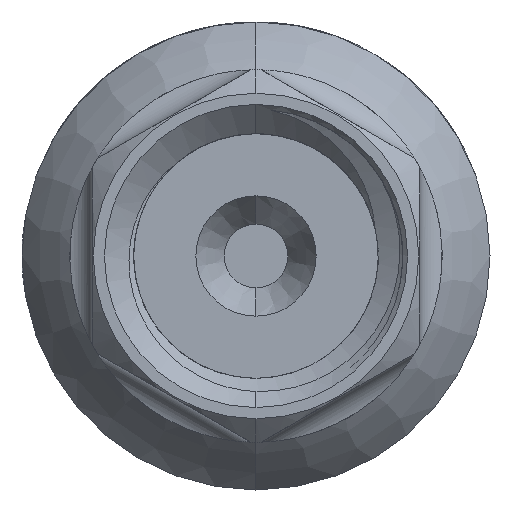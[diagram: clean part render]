
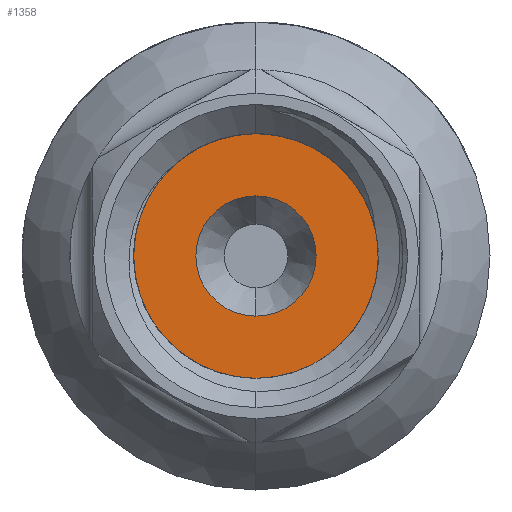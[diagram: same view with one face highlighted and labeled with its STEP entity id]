
A CAD part, left-side view. The second image highlights one B-rep face of the part: STEP entity #1358.
In plain terms, the highlighted planar face has unit normal (-1, 0, 0).
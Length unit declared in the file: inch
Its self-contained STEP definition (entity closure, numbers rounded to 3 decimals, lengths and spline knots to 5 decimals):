
#1358 = ADVANCED_FACE ( 'NONE', ( #24833, #45569 ), #10100, .F. ) ;
#2500 = DIRECTION ( 'NONE',  ( 0., 0., -1. ) ) ;
#2913 = VERTEX_POINT ( 'NONE', #30684 ) ;
#4974 = ORIENTED_EDGE ( 'NONE', *, *, #29363, .F. ) ;
#7228 = AXIS2_PLACEMENT_3D ( 'NONE', #64911, #49910, #60563 ) ;
#10100 = PLANE ( 'NONE',  #7228 ) ;
#10412 = CARTESIAN_POINT ( 'NONE',  ( 0.18, 0., 0. ) ) ;
#11456 = AXIS2_PLACEMENT_3D ( 'NONE', #33281, #53593, #28910 ) ;
#12173 = EDGE_LOOP ( 'NONE', ( #17810, #24118 ) ) ;
#16430 = DIRECTION ( 'NONE',  ( 0., 0., -1. ) ) ;
#17001 = VERTEX_POINT ( 'NONE', #63796 ) ;
#17570 = CARTESIAN_POINT ( 'NONE',  ( 0.18, 0., 0. ) ) ;
#17810 = ORIENTED_EDGE ( 'NONE', *, *, #44969, .T. ) ;
#19587 = DIRECTION ( 'NONE',  ( 0., 0., -1. ) ) ;
#20474 = DIRECTION ( 'NONE',  ( 1., 0., 0. ) ) ;
#24118 = ORIENTED_EDGE ( 'NONE', *, *, #33930, .T. ) ;
#24833 = FACE_OUTER_BOUND ( 'NONE', #47191, .T. ) ;
#26111 = CIRCLE ( 'NONE', #55916, 0.0575 ) ;
#28910 = DIRECTION ( 'NONE',  ( 0., 0., -1. ) ) ;
#29363 = EDGE_CURVE ( 'NONE', #2913, #45382, #26111, .T. ) ;
#30684 = CARTESIAN_POINT ( 'NONE',  ( 0.18, 0., -0.0575 ) ) ;
#33281 = CARTESIAN_POINT ( 'NONE',  ( 0.18, 0., 0. ) ) ;
#33930 = EDGE_CURVE ( 'NONE', #56737, #17001, #35808, .T. ) ;
#35655 = DIRECTION ( 'NONE',  ( 1., 0., 0. ) ) ;
#35808 = CIRCLE ( 'NONE', #36896, 0.02828 ) ;
#36896 = AXIS2_PLACEMENT_3D ( 'NONE', #17570, #54612, #2500 ) ;
#38163 = CIRCLE ( 'NONE', #53055, 0.0575 ) ;
#43550 = CIRCLE ( 'NONE', #11456, 0.02828 ) ;
#44219 = EDGE_CURVE ( 'NONE', #45382, #2913, #38163, .T. ) ;
#44969 = EDGE_CURVE ( 'NONE', #17001, #56737, #43550, .T. ) ;
#45382 = VERTEX_POINT ( 'NONE', #54098 ) ;
#45569 = FACE_BOUND ( 'NONE', #12173, .T. ) ;
#47191 = EDGE_LOOP ( 'NONE', ( #4974, #48591 ) ) ;
#48591 = ORIENTED_EDGE ( 'NONE', *, *, #44219, .F. ) ;
#49910 = DIRECTION ( 'NONE',  ( 1., 0., 0. ) ) ;
#53055 = AXIS2_PLACEMENT_3D ( 'NONE', #10412, #20474, #16430 ) ;
#53593 = DIRECTION ( 'NONE',  ( 1., 0., 0. ) ) ;
#54098 = CARTESIAN_POINT ( 'NONE',  ( 0.18, 0., 0.0575 ) ) ;
#54506 = CARTESIAN_POINT ( 'NONE',  ( 0.18, 0., -0.02828 ) ) ;
#54612 = DIRECTION ( 'NONE',  ( 1., 0., 0. ) ) ;
#55916 = AXIS2_PLACEMENT_3D ( 'NONE', #56280, #35655, #19587 ) ;
#56280 = CARTESIAN_POINT ( 'NONE',  ( 0.18, 0., 0. ) ) ;
#56737 = VERTEX_POINT ( 'NONE', #54506 ) ;
#60563 = DIRECTION ( 'NONE',  ( 0., 0., -1. ) ) ;
#63796 = CARTESIAN_POINT ( 'NONE',  ( 0.18, 0., 0.02828 ) ) ;
#64911 = CARTESIAN_POINT ( 'NONE',  ( 0.18, 0.02828, 0. ) ) ;
